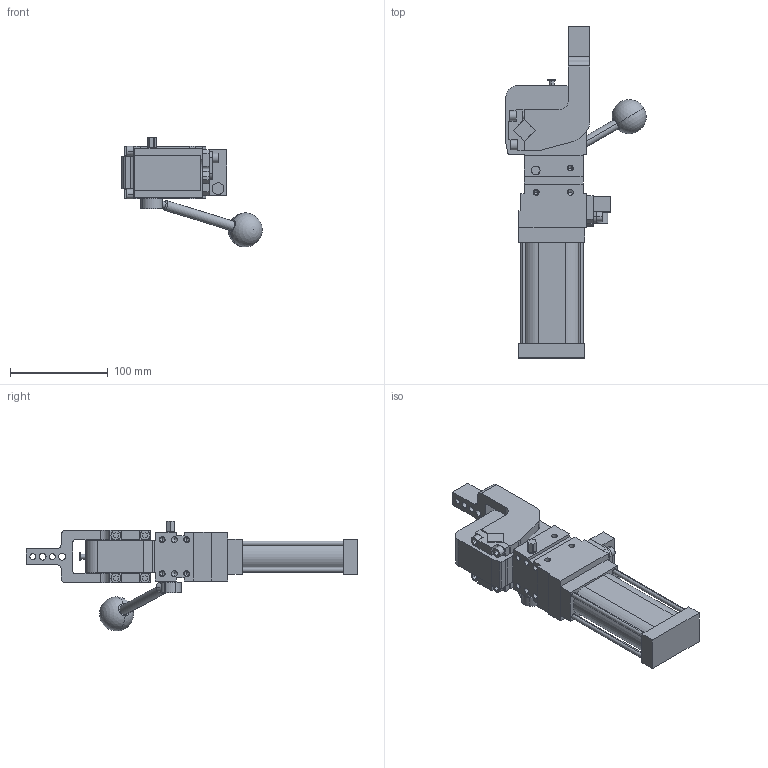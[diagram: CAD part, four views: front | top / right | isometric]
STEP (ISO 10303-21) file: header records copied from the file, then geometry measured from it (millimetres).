
FILE_DESCRIPTION (( 'STEP AP214' ), '1' );
FILE_NAME ('cplm40lbh3csi1g_16.STEP', '2021-05-25T13:53:10', ( '' ), ( '' ), 'SwSTEP 2.0', 'SolidWorks 2021', '' );
FILE_SCHEMA (( 'AUTOMOTIVE_DESIGN' ));
Length unit declared in the file: millimetre
Products named in the file (6): leva_v3c_cpl40; piastra_blocchetto_cpl40; blocchetto_VEP_0_cpl40; cplm40lbh3csi1g_16; meccanica_cplm40; comando_manuale_cplm_40
Assembly tree (5 placements, depth 2):
  cplm40lbh3csi1g_16
    meccanica_cplm40
    leva_v3c_cpl40
    blocchetto_VEP_0_cpl40
    piastra_blocchetto_cpl40
    comando_manuale_cplm_40
Bounding box: 143.62 x 340 x 112.66 mm (x, y, z)
Volume: 824463.8 mm3; surface area: 130997.7 mm2
Topology: 6 solids, 6 shells, 500 faces, 1288 edges, 815 vertices
Faces by surface type: plane 289, cylinder 163, cone 46, sphere 2
Entity records: 16520 total; most frequent: CARTESIAN_POINT 2679, DIRECTION 2635, ORIENTED_EDGE 2482, EDGE_CURVE 1241, AXIS2_PLACEMENT_3D 890, VECTOR 855, LINE 855, VERTEX_POINT 812
